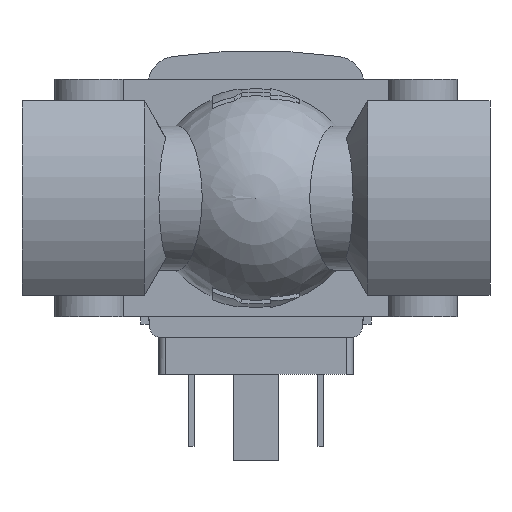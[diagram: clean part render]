
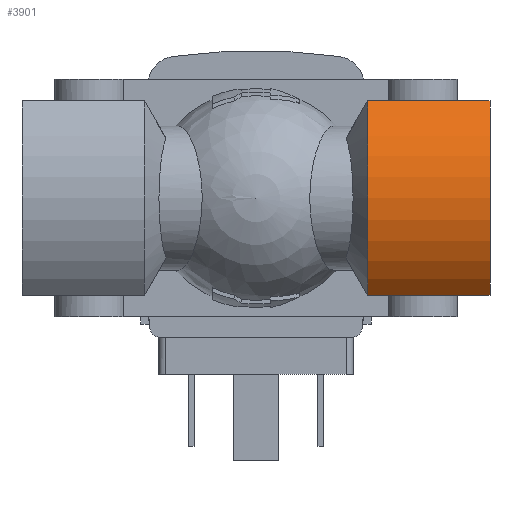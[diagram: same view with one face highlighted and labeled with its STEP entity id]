
A CAD part, front view. The second image highlights one B-rep face of the part: STEP entity #3901.
In plain terms, the highlighted cylindrical face has radius 19 mm (diameter 38 mm), a partial arc.
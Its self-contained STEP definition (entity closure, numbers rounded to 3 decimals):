
#82=CYLINDRICAL_SURFACE('',#4912,19.);
#265=LINE('',#6854,#583);
#267=LINE('',#6858,#585);
#583=VECTOR('',#5594,1000.);
#585=VECTOR('',#5598,1000.);
#1135=ORIENTED_EDGE('',*,*,#2118,.T.);
#1136=ORIENTED_EDGE('',*,*,#2109,.F.);
#1137=ORIENTED_EDGE('',*,*,#2119,.F.);
#1138=ORIENTED_EDGE('',*,*,#2107,.T.);
#2107=EDGE_CURVE('',#2612,#2611,#265,.T.);
#2109=EDGE_CURVE('',#2613,#2614,#267,.T.);
#2118=EDGE_CURVE('',#2611,#2614,#2944,.T.);
#2119=EDGE_CURVE('',#2612,#2613,#2945,.T.);
#2611=VERTEX_POINT('',#6853);
#2612=VERTEX_POINT('',#6855);
#2613=VERTEX_POINT('',#6859);
#2614=VERTEX_POINT('',#6860);
#2944=CIRCLE('',#4913,19.);
#2945=CIRCLE('',#4914,19.);
#3123=EDGE_LOOP('',(#1135,#1136,#1137,#1138));
#3435=FACE_BOUND('',#3123,.T.);
#3901=ADVANCED_FACE('',(#3435),#82,.T.);
#4912=AXIS2_PLACEMENT_3D('',#6881,#5612,#5613);
#4913=AXIS2_PLACEMENT_3D('',#6882,#5614,#5615);
#4914=AXIS2_PLACEMENT_3D('',#6883,#5616,#5617);
#5594=DIRECTION('',(-1.,0.,0.));
#5598=DIRECTION('',(-1.,0.,0.));
#5612=DIRECTION('',(-1.,0.,0.));
#5613=DIRECTION('',(0.,0.,1.));
#5614=DIRECTION('',(1.,0.,0.));
#5615=DIRECTION('',(0.,0.,-1.));
#5616=DIRECTION('',(1.,0.,0.));
#5617=DIRECTION('',(0.,0.,-1.));
#6853=CARTESIAN_POINT('',(15.5,-7.87,13.5));
#6854=CARTESIAN_POINT('',(32.5,-7.87,13.5));
#6855=CARTESIAN_POINT('',(32.5,-7.87,13.5));
#6858=CARTESIAN_POINT('',(32.5,-7.87,-13.5));
#6859=CARTESIAN_POINT('',(32.5,-7.87,-13.5));
#6860=CARTESIAN_POINT('',(15.5,-7.87,-13.5));
#6881=CARTESIAN_POINT('',(32.5,5.5,0.));
#6882=CARTESIAN_POINT('',(15.5,5.5,0.));
#6883=CARTESIAN_POINT('',(32.5,5.5,0.));
